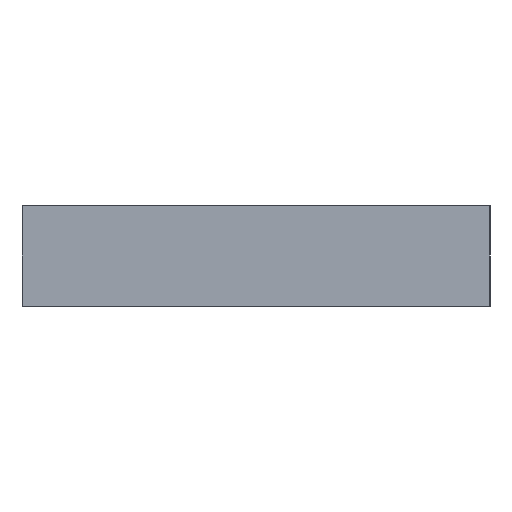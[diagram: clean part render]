
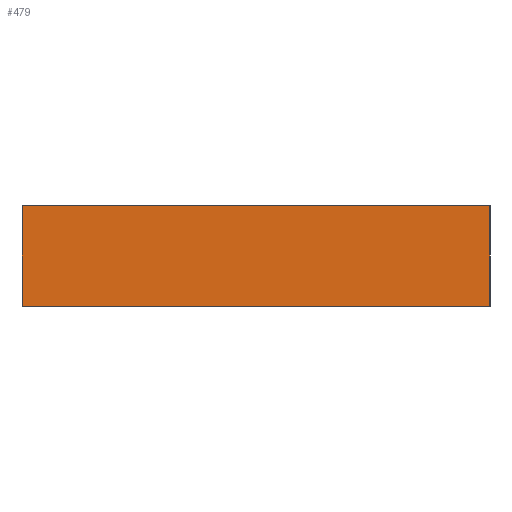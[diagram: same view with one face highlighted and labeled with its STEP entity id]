
A CAD part, front view. The second image highlights one B-rep face of the part: STEP entity #479.
In plain terms, the highlighted planar face has unit normal (0, -1, 0).
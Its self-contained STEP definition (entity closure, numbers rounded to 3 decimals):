
#7 = CARTESIAN_POINT ( 'NONE',  ( 7., -208.5, 3. ) ) ;
#13 = AXIS2_PLACEMENT_3D ( 'NONE', #192, #150, #16 ) ;
#16 = DIRECTION ( 'NONE',  ( 0., 0., 1. ) ) ;
#63 = LINE ( 'NONE', #7, #527 ) ;
#100 = CARTESIAN_POINT ( 'NONE',  ( 0., -208.5, 3. ) ) ;
#114 = ORIENTED_EDGE ( 'NONE', *, *, #461, .T. ) ;
#118 = DIRECTION ( 'NONE',  ( 1., 0., 0. ) ) ;
#128 = VECTOR ( 'NONE', #361, 1000. ) ;
#150 = DIRECTION ( 'NONE',  ( 0., 1., 0. ) ) ;
#154 = VERTEX_POINT ( 'NONE', #523 ) ;
#180 = DIRECTION ( 'NONE',  ( 0., 0., -1. ) ) ;
#192 = CARTESIAN_POINT ( 'NONE',  ( 0., -208.5, 3. ) ) ;
#194 = LINE ( 'NONE', #379, #274 ) ;
#217 = EDGE_CURVE ( 'NONE', #529, #427, #194, .T. ) ;
#218 = EDGE_LOOP ( 'NONE', ( #497, #270, #484, #114 ) ) ;
#253 = LINE ( 'NONE', #273, #128 ) ;
#255 = PLANE ( 'NONE',  #13 ) ;
#270 = ORIENTED_EDGE ( 'NONE', *, *, #530, .F. ) ;
#272 = DIRECTION ( 'NONE',  ( 1., 0., 0. ) ) ;
#273 = CARTESIAN_POINT ( 'NONE',  ( -7., -208.5, 3. ) ) ;
#274 = VECTOR ( 'NONE', #118, 1000. ) ;
#308 = CARTESIAN_POINT ( 'NONE',  ( -7., -208.5, 0. ) ) ;
#340 = VECTOR ( 'NONE', #272, 1000. ) ;
#361 = DIRECTION ( 'NONE',  ( 0., 0., -1. ) ) ;
#379 = CARTESIAN_POINT ( 'NONE',  ( 0., -208.5, 0. ) ) ;
#427 = VERTEX_POINT ( 'NONE', #460 ) ;
#450 = FACE_OUTER_BOUND ( 'NONE', #218, .T. ) ;
#460 = CARTESIAN_POINT ( 'NONE',  ( 7., -208.5, 0. ) ) ;
#461 = EDGE_CURVE ( 'NONE', #154, #529, #253, .T. ) ;
#472 = EDGE_CURVE ( 'NONE', #154, #487, #483, .T. ) ;
#479 = ADVANCED_FACE ( 'NONE', ( #450 ), #255, .F. ) ;
#483 = LINE ( 'NONE', #100, #340 ) ;
#484 = ORIENTED_EDGE ( 'NONE', *, *, #472, .F. ) ;
#487 = VERTEX_POINT ( 'NONE', #573 ) ;
#497 = ORIENTED_EDGE ( 'NONE', *, *, #217, .T. ) ;
#523 = CARTESIAN_POINT ( 'NONE',  ( -7., -208.5, 3. ) ) ;
#527 = VECTOR ( 'NONE', #180, 1000. ) ;
#529 = VERTEX_POINT ( 'NONE', #308 ) ;
#530 = EDGE_CURVE ( 'NONE', #487, #427, #63, .T. ) ;
#573 = CARTESIAN_POINT ( 'NONE',  ( 7., -208.5, 3. ) ) ;
